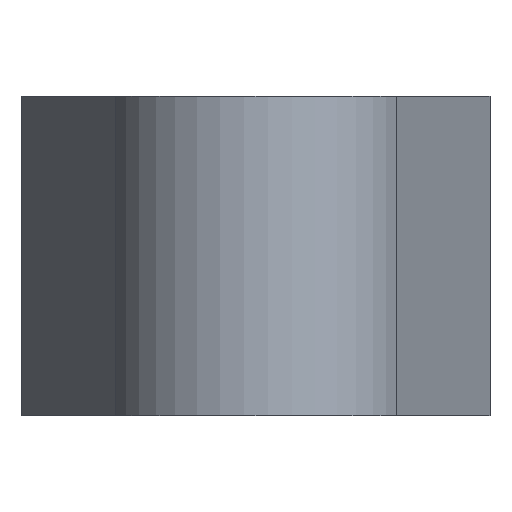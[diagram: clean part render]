
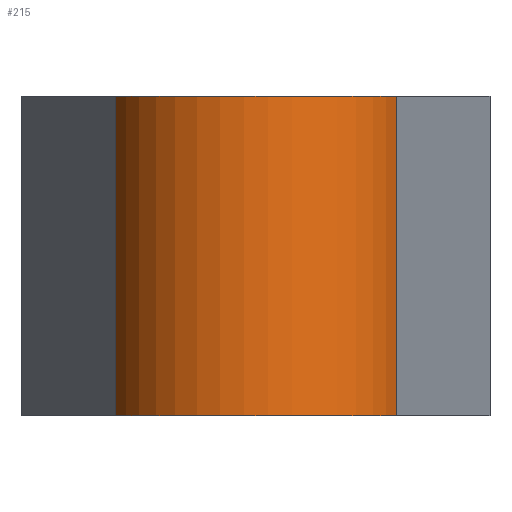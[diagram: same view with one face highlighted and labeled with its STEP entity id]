
A CAD part, left-side view. The second image highlights one B-rep face of the part: STEP entity #215.
In plain terms, the highlighted cylindrical face has radius 14 mm (diameter 28 mm), a partial arc.
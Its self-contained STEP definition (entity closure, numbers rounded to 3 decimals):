
#127=CYLINDRICAL_SURFACE('',#827,14.);
#156=CIRCLE('',#825,14.);
#157=CIRCLE('',#826,14.);
#215=ADVANCED_FACE('',(#272),#127,.T.);
#272=FACE_OUTER_BOUND('',#306,.T.);
#306=EDGE_LOOP('',(#387,#388,#389,#390));
#387=ORIENTED_EDGE('',*,*,#644,.F.);
#388=ORIENTED_EDGE('',*,*,#647,.T.);
#389=ORIENTED_EDGE('',*,*,#627,.T.);
#390=ORIENTED_EDGE('',*,*,#648,.F.);
#561=VERTEX_POINT('',#1162);
#562=VERTEX_POINT('',#1164);
#573=VERTEX_POINT('',#1198);
#574=VERTEX_POINT('',#1199);
#627=EDGE_CURVE('',#562,#561,#727,.T.);
#644=EDGE_CURVE('',#573,#574,#740,.T.);
#647=EDGE_CURVE('',#573,#562,#156,.T.);
#648=EDGE_CURVE('',#574,#561,#157,.T.);
#727=LINE('',#1163,#771);
#740=LINE('',#1197,#784);
#771=VECTOR('',#917,1.);
#784=VECTOR('',#950,1.);
#825=AXIS2_PLACEMENT_3D('',#1203,#955,#956);
#826=AXIS2_PLACEMENT_3D('',#1204,#957,#958);
#827=AXIS2_PLACEMENT_3D('',#1205,#959,#960);
#917=DIRECTION('',(0.,0.,1.));
#950=DIRECTION('',(0.,0.,1.));
#955=DIRECTION('',(0.,0.,1.));
#956=DIRECTION('',(1.,0.,0.));
#957=DIRECTION('',(0.,0.,1.));
#958=DIRECTION('',(1.,0.,0.));
#959=DIRECTION('',(0.,0.,1.));
#960=DIRECTION('',(-1.,0.,0.));
#1162=CARTESIAN_POINT('',(-4.704,-13.186,30.));
#1163=CARTESIAN_POINT('',(-4.704,-13.186,0.));
#1164=CARTESIAN_POINT('',(-4.704,-13.186,0.));
#1197=CARTESIAN_POINT('',(-4.704,13.186,0.));
#1198=CARTESIAN_POINT('',(-4.704,13.186,0.));
#1199=CARTESIAN_POINT('',(-4.704,13.186,30.));
#1203=CARTESIAN_POINT('',(0.,0.,0.));
#1204=CARTESIAN_POINT('',(0.,0.,30.));
#1205=CARTESIAN_POINT('',(0.,0.,0.));
